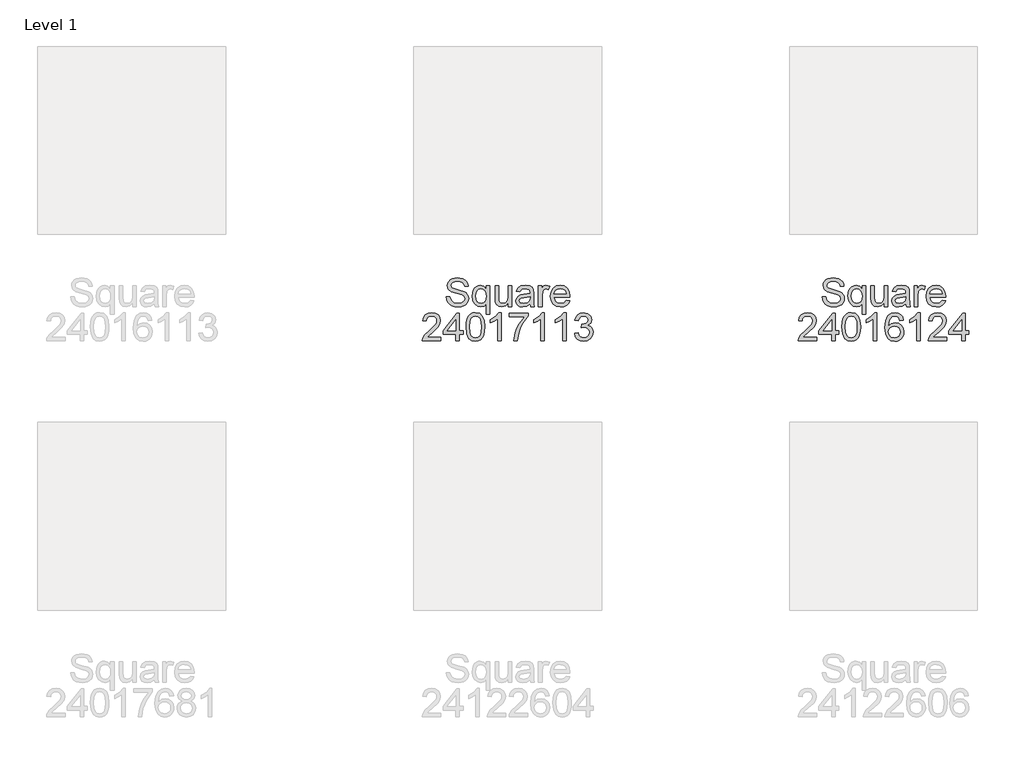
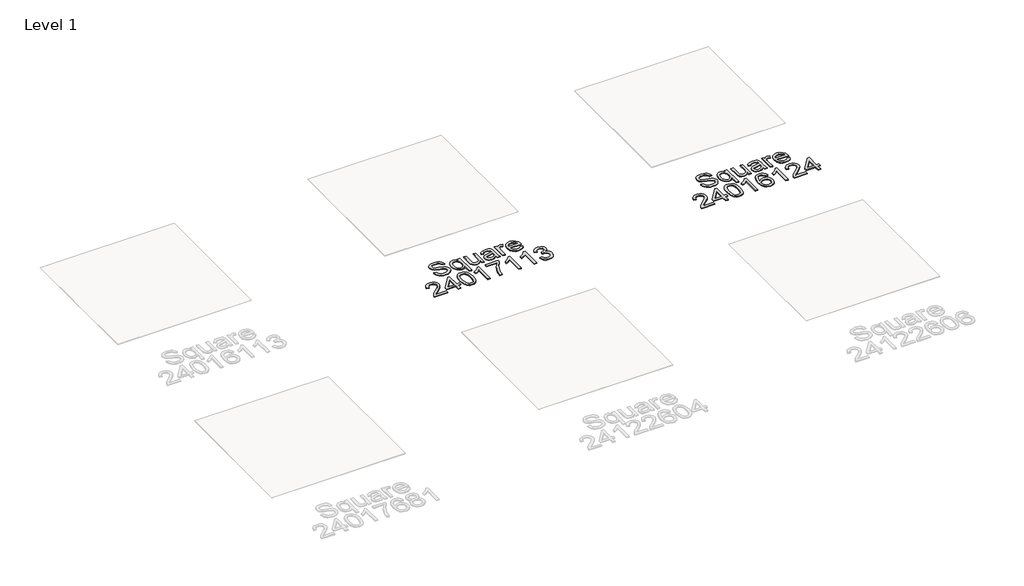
# One storey, part 6 of 6: 2 proxies.
"""IFC4 building model written with IfcOpenShell, lengths in millimetres."""

from ifc_helpers import new_model, si_unit, origin, origin_with_axes, place, context, project, spatial, polyline, outline, extrude, element, save

model = new_model("IFC4")

# Units and contexts
model_context = context("Model", 3, world=origin())
ifc_project = project(units=[si_unit("LENGTHUNIT", "METRE", prefix="MILLI")], contexts=[model_context])

# Site, building, storey
site = spatial("IfcSite", under=ifc_project)
building = spatial("IfcBuilding", under=site)
storey = spatial("IfcBuildingStorey", under=building, Name="Level 1", Elevation=0.0)

# Proxies
placement = place(None, origin())
element("IfcBuildingElementProxy", 1, Name="150mm Arial", ObjectType="150mm Arial", at=placement, inside=storey, context=model_context, shape_type="SweptSolid", body=[
    extrude(outline(polyline([(1239.9685562, 688.8522427), (1258.8041143, 688.8522427), (1264.8741672, 669.9982904), (1279.6998116, 658.0789138), (1302.2877661, 653.5355712), (1321.9694529, 656.9752678), (1334.6797758, 666.4298351), (1338.8552365, 679.0665816), (1335.7282395, 690.8204114), (1322.9259461, 699.3736678), (1295.5003433, 706.5657608), (1265.9778132, 715.8547811), (1249.9565523, 729.8710852), (1244.6774457, 748.5962787), (1246.3099221, 759.62814), (1251.2073511, 769.9150403), (1259.2409742, 778.6338436), (1270.2820326, 784.9614139), (1298.204276, 790.0933678), (1328.0027176, 784.7222906), (1339.4254536, 778.0912177), (1347.8683453, 768.940153), (1353.2118313, 757.8393138), (1355.3363499, 745.3589172), (1336.5007917, 745.3589172), (1333.0427009, 756.5977121), (1325.8322138, 764.7095101), (1314.5658277, 769.6207347), (1298.94004, 771.2578096), (1282.9463703, 769.6391288), (1271.9742897, 764.7830865), (1265.6283253, 757.6369787), (1263.5130039, 749.1481017), (1265.012123, 741.9100234), (1269.5094804, 736.0882909), (1300.2644152, 725.5668658), (1333.5945239, 716.1122985), (1344.3320797, 709.2788905), (1351.8230768, 700.8451957), (1356.2238652, 690.9031848), (1357.6907946, 679.5448282), (1356.003136, 667.9335527), (1350.94016, 657.012056), (1342.7088004, 647.612671), (1331.5159907, 640.5677308), (1318.0561082, 636.1669425), (1303.0235301, 634.700013), (1284.5696496, 636.2819056), (1269.3807217, 641.0275833), (1257.2820026, 648.9554403), (1248.0987483, 660.0838707), (1242.2034393, 673.6403222), (1239.9685562, 688.8522427)])), origin_with_axes(), (0.0, 0.0, 1.0), 5.0),
    extrude(outline(polyline([(1451.8685854, 594.6744519), (1451.8685854, 652.1376196), (1439.9124205, 639.6664199), (1423.57846, 634.700013), (1405.6718038, 638.6225548), (1390.4322922, 650.3901801), (1380.0028376, 668.9912135), (1376.5263528, 693.4139794), (1382.0445827, 723.2492092), (1388.8044144, 734.8558862), (1398.0474495, 743.2619898), (1409.0379241, 748.3663525), (1421.0400742, 750.0678067), (1438.5512572, 744.7887001), (1451.8685854, 728.9513802), (1451.8685854, 747.7133619), (1470.7041435, 747.7133619), (1470.7041435, 594.6744519), (1451.8685854, 594.6744519)]), holes=[polyline([(1395.3619109, 692.3839098), (1397.4818309, 675.3877617), (1403.8415909, 663.2476558), (1413.162801, 655.9635923), (1424.1670711, 653.5355712), (1434.7114888, 655.8440307), (1443.683211, 662.7694092), (1449.8222418, 674.4128744), (1451.8685854, 690.8755937), (1449.7118772, 708.4741486), (1443.2417526, 721.0970996), (1433.8653602, 728.6984613), (1422.9898488, 731.2322485), (1412.3166724, 728.8732052), (1403.4001325, 721.7960754), (1397.3714663, 709.7249474), (1395.3619109, 692.3839098)])]), origin_with_axes(), (0.0, 0.0, 1.0), 5.0),
    extrude(outline(polyline([(1569.5908238, 637.0544578), (1569.5908238, 656.0739569), (1554.8387558, 640.043499), (1535.5985275, 634.700013), (1517.8850094, 638.4524094), (1505.6713272, 647.8701884), (1500.0611268, 661.7393396), (1498.9574808, 679.2505226), (1498.9574808, 747.7133619), (1517.7930389, 747.7133619), (1517.7930389, 688.1164787), (1518.9334731, 668.9130386), (1526.3830835, 657.6374554), (1540.4177816, 653.5355712), (1556.1447369, 657.7294259), (1566.5374033, 669.1521618), (1569.5908238, 690.1398297), (1569.5908238, 747.7133619), (1588.426382, 747.7133619), (1588.426382, 637.0544578), (1569.5908238, 637.0544578)])), origin_with_axes(), (0.0, 0.0, 1.0), 5.0),
    extrude(outline(polyline([(1684.9586175, 651.1811264), (1666.6932765, 638.4156212), (1646.514949, 634.700013), (1630.7741982, 636.9348961), (1619.1629227, 643.6395455), (1612.0030194, 653.8206797), (1609.6163849, 666.4850174), (1613.2216285, 681.3842382), (1622.6945898, 692.1999688), (1635.8831594, 698.3803864), (1652.1803318, 701.2130777), (1684.8482529, 707.6878008), (1684.9586175, 711.8816556), (1683.6618335, 720.2877592), (1679.7714814, 725.787595), (1671.0710722, 729.8710852), (1658.9493605, 731.2322485), (1639.8930731, 727.6086109), (1630.8063878, 714.7511352), (1611.9708297, 717.1055799), (1620.1194159, 735.4996797), (1636.5269529, 746.2786221), (1661.3773816, 750.0678067), (1684.2044594, 746.7200805), (1697.0987234, 738.3139769), (1702.8744707, 725.5300776), (1703.7941757, 709.0489642), (1703.7941757, 685.6148811), (1704.7506689, 652.8917777), (1708.5030652, 637.0544578), (1689.6675071, 637.0544578), (1684.9586175, 651.1811264)]), holes=[polyline([(1684.9586175, 688.8522427), (1654.5715647, 683.0764954), (1638.3663628, 680.0230748), (1631.027117, 675.0566679), (1628.4519431, 667.8093926), (1634.0621435, 657.6190613), (1650.5248628, 653.5355712), (1669.5811501, 658.0421256), (1681.8684088, 668.9498268), (1684.8482529, 683.5179538), (1684.9586175, 688.8522427)])]), origin_with_axes(), (0.0, 0.0, 1.0), 5.0),
    extrude(outline(polyline([(1729.6930681, 637.0544578), (1729.6930681, 747.7133619), (1746.1741815, 747.7133619), (1746.1741815, 731.3426131), (1757.872829, 746.4257749), (1769.6450528, 750.0678067), (1788.5541874, 744.2552712), (1782.2634053, 727.3694876), (1769.0196534, 731.2322485), (1758.3694697, 727.5166404), (1751.5820469, 717.2159445), (1748.5286263, 695.2166012), (1748.5286263, 637.0544578), (1729.6930681, 637.0544578)])), origin_with_axes(), (0.0, 0.0, 1.0), 5.0),
    extrude(outline(polyline([(1877.8023594, 670.0166845), (1896.2700356, 667.6622398), (1889.61597, 653.7471033), (1878.9979759, 643.3452399), (1864.6551766, 636.8613197), (1846.8266954, 634.700013), (1824.7261845, 638.4294167), (1807.7208393, 649.6176279), (1796.8775175, 667.5380796), (1793.2630769, 691.4642049), (1796.9143057, 716.195072), (1807.8679921, 734.6903393), (1824.6434111, 746.2234398), (1845.7598376, 750.0678067), (1866.2186751, 746.2326369), (1882.5664312, 734.7271275), (1893.2855929, 716.2686484), (1896.8586468, 691.5745695), (1896.7482822, 686.4977979), (1812.0986351, 686.4977979), (1815.3589892, 672.3987205), (1822.9327598, 662.0336452), (1833.8634536, 655.6600897), (1847.1945774, 653.5355712), (1865.6622536, 657.4719085), (1877.8023594, 670.0166845)]), holes=[polyline([(1812.0986351, 705.3333561), (1878.0230886, 705.3333561), (1875.4755058, 715.284564), (1870.4815077, 722.4030807), (1859.5002301, 729.0249566), (1845.6862612, 731.2322485), (1832.9897339, 729.4710135), (1822.4913014, 724.1873083), (1815.1934423, 715.9513502), (1812.0986351, 705.3333561)])]), origin_with_axes(), (0.0, 0.0, 1.0), 5.0),
    extrude(outline(polyline([(1210.5379966, 472.9277892), (1210.5379966, 454.092231), (1111.6513162, 454.092231), (1113.6746672, 467.0784654), (1125.1157973, 487.0728519), (1148.6970332, 508.9066483), (1181.2178015, 540.2869825), (1187.3154456, 551.1027131), (1189.3479936, 561.6241382), (1187.4304087, 571.0557128), (1181.677654, 578.8961979), (1172.8346906, 584.179903), (1161.6464794, 585.9411381), (1149.8972482, 584.2212897), (1140.7691762, 579.0617448), (1134.8784657, 570.8671733), (1132.8413192, 560.0422456), (1114.005761, 562.3966904), (1118.5720963, 580.6160462), (1128.4451293, 593.9241774), (1143.1098254, 602.0635665), (1162.0511496, 604.7766962), (1181.1304296, 601.7600639), (1195.7675344, 592.7101668), (1205.0795474, 579.1905035), (1208.1835518, 562.7645724), (1204.8358256, 544.9039015), (1193.7073953, 526.4362254), (1166.7232509, 500.6293034), (1145.0550014, 482.5111151), (1136.5569273, 472.9277892), (1210.5379966, 472.9277892)])), origin_with_axes(), (0.0, 0.0, 1.0), 5.0),
    extrude(outline(polyline([(1290.5891187, 454.092231), (1290.5891187, 489.4089025), (1222.3102204, 489.4089025), (1222.3102204, 508.2444607), (1295.2980082, 602.4222515), (1309.4246769, 602.4222515), (1309.4246769, 508.2444607), (1328.260235, 508.2444607), (1328.260235, 489.4089025), (1309.4246769, 489.4089025), (1309.4246769, 454.092231), (1290.5891187, 454.092231)]), holes=[polyline([(1290.5891187, 508.2444607), (1290.5891187, 566.4433923), (1245.4867861, 508.2444607), (1290.5891187, 508.2444607)])]), origin_with_axes(), (0.0, 0.0, 1.0), 5.0),
    extrude(outline(polyline([(1344.7413484, 528.220453), (1346.1255044, 552.3397163), (1350.2779724, 571.5753462), (1357.1573657, 586.2216481), (1366.7222976, 596.5729277), (1379.0417459, 602.7257541), (1394.1846885, 604.7766962), (1416.1840319, 599.9206539), (1431.3775583, 585.922744), (1440.2067261, 563.6290951), (1443.6280287, 528.220453), (1442.2576683, 504.2391455), (1438.146587, 485.0495009), (1431.3085804, 470.3894034), (1421.7574441, 459.996737), (1409.4104046, 453.8025239), (1394.1846885, 451.7377862), (1374.6133664, 455.3246357), (1359.7509338, 466.085184), (1348.4937447, 491.5702093), (1344.7413484, 528.220453)]), holes=[polyline([(1363.5769065, 528.2572412), (1365.7841985, 498.628945), (1372.4060744, 481.4810455), (1382.2653119, 473.3002697), (1394.1846885, 470.5733444), (1406.1040652, 473.3094667), (1415.9633027, 481.5178337), (1422.5851786, 498.6749303), (1424.7924705, 528.2572412), (1422.658755, 557.2187513), (1416.2576083, 574.500008), (1406.4167649, 583.0808556), (1393.9639593, 585.9411381), (1382.1733414, 583.4211464), (1372.70038, 575.8611714), (1365.8577749, 557.5038598), (1363.5769065, 528.2572412)])]), origin_with_axes(), (0.0, 0.0, 1.0), 5.0),
    extrude(outline(polyline([(1530.7424852, 454.092231), (1511.906927, 454.092231), (1511.906927, 571.5201639), (1494.0646502, 558.8098409), (1474.2358107, 549.3000914), (1474.2358107, 567.1055799), (1501.8453544, 584.7271275), (1518.6023793, 604.7766962), (1530.7424852, 604.7766962), (1530.7424852, 454.092231)])), origin_with_axes(), (0.0, 0.0, 1.0), 5.0),
    extrude(outline(polyline([(1575.4769358, 583.5866933), (1575.4769358, 602.4222515), (1674.3636161, 602.4222515), (1674.3636161, 587.1919369), (1646.3126139, 546.6697351), (1634.0023627, 521.2077025), (1624.8466995, 495.0374971), (1617.8569416, 454.092231), (1599.0213835, 454.092231), (1606.5077821, 496.5826014), (1615.2219868, 521.0421556), (1627.0539915, 544.6095959), (1655.5280579, 583.5866933), (1575.4769358, 583.5866933)])), origin_with_axes(), (0.0, 0.0, 1.0), 5.0),
    extrude(outline(polyline([(1761.4780725, 454.092231), (1742.6425144, 454.092231), (1742.6425144, 571.5201639), (1724.8002376, 558.8098409), (1704.9713981, 549.3000914), (1704.9713981, 567.1055799), (1732.5809418, 584.7271275), (1749.3379667, 604.7766962), (1761.4780725, 604.7766962), (1761.4780725, 454.092231)])), origin_with_axes(), (0.0, 0.0, 1.0), 5.0),
    extrude(outline(polyline([(1876.8458662, 454.092231), (1858.0103081, 454.092231), (1858.0103081, 571.5201639), (1840.1680313, 558.8098409), (1820.3391918, 549.3000914), (1820.3391918, 567.1055799), (1847.9487355, 584.7271275), (1864.7057604, 604.7766962), (1876.8458662, 604.7766962), (1876.8458662, 454.092231)])), origin_with_axes(), (0.0, 0.0, 1.0), 5.0),
    extrude(outline(polyline([(1921.5803168, 494.1177921), (1940.415875, 496.4722368), (1944.6327224, 484.6356337), (1950.8085413, 476.6433973), (1959.2468346, 472.0908576), (1970.2511048, 470.5733444), (1983.1637628, 472.6610747), (1993.1333649, 478.9242657), (1999.5069205, 488.2684684), (2001.631439, 499.5992338), (1999.5253146, 510.3551836), (1993.2069413, 519.0785855), (1983.6420094, 524.8589313), (1971.7962092, 526.7857132), (1958.5892455, 524.7255741), (1960.6861729, 543.5611322), (1963.7028053, 543.340403), (1985.0767492, 548.7482684), (1992.1952658, 555.6092676), (1994.5681047, 565.3765345), (1992.8482563, 573.5113252), (1987.6887114, 580.1102085), (1979.8160367, 584.4834057), (1969.9567992, 585.9411381), (1960.0791676, 584.4696101), (1952.0041578, 580.0550262), (1946.1088489, 572.6973862), (1942.7703198, 562.3966904), (1923.9347616, 564.7511352), (1929.4805827, 581.6645099), (1939.3490172, 594.2920594), (1952.8502864, 602.155537), (1969.2946116, 604.7766962), (1992.0113248, 599.6079542), (2007.903827, 585.4812856), (2013.4036628, 566.4801805), (2008.1797385, 549.1161504), (1992.7286947, 536.6449507), (2004.5193126, 531.8808789), (2013.25651, 523.7690809), (2018.6643754, 512.7510151), (2020.4669971, 499.26814), (2016.8617536, 480.9108285), (2006.0460229, 465.5701493), (1989.7212594, 455.195877), (1969.5889172, 451.7377862), (1951.3787584, 454.6900392), (1936.553114, 463.5467983), (1926.2432211, 477.0940528), (1921.5803168, 494.1177921)])), origin_with_axes(), (0.0, 0.0, 1.0), 5.0),
])
element("IfcBuildingElementProxy", 2, Name="150mm Arial", ObjectType="150mm Arial", at=placement, inside=storey, context=model_context, shape_type="SweptSolid", body=[
    extrude(outline(polyline([(3239.9685562, 688.8522427), (3258.8041143, 688.8522427), (3264.8741672, 669.9982904), (3279.6998116, 658.0789138), (3302.2877661, 653.5355712), (3321.9694529, 656.9752678), (3334.6797758, 666.4298351), (3338.8552365, 679.0665816), (3335.7282395, 690.8204114), (3322.9259461, 699.3736678), (3295.5003433, 706.5657608), (3265.9778132, 715.8547811), (3249.9565523, 729.8710852), (3244.6774457, 748.5962787), (3246.3099221, 759.62814), (3251.2073511, 769.9150403), (3259.2409742, 778.6338436), (3270.2820326, 784.9614139), (3298.204276, 790.0933678), (3328.0027176, 784.7222906), (3339.4254536, 778.0912177), (3347.8683453, 768.940153), (3353.2118313, 757.8393138), (3355.3363499, 745.3589172), (3336.5007917, 745.3589172), (3333.0427009, 756.5977121), (3325.8322138, 764.7095101), (3314.5658277, 769.6207347), (3298.94004, 771.2578096), (3282.9463703, 769.6391288), (3271.9742897, 764.7830865), (3265.6283253, 757.6369787), (3263.5130039, 749.1481017), (3265.012123, 741.9100234), (3269.5094804, 736.0882909), (3300.2644152, 725.5668658), (3333.5945239, 716.1122985), (3344.3320797, 709.2788905), (3351.8230768, 700.8451957), (3356.2238652, 690.9031848), (3357.6907946, 679.5448282), (3356.003136, 667.9335527), (3350.94016, 657.012056), (3342.7088004, 647.612671), (3331.5159907, 640.5677308), (3318.0561082, 636.1669425), (3303.0235301, 634.700013), (3284.5696496, 636.2819056), (3269.3807217, 641.0275833), (3257.2820026, 648.9554403), (3248.0987483, 660.0838707), (3242.2034393, 673.6403222), (3239.9685562, 688.8522427)])), origin_with_axes(), (0.0, 0.0, 1.0), 5.0),
    extrude(outline(polyline([(3451.8685854, 594.6744519), (3451.8685854, 652.1376196), (3439.9124205, 639.6664199), (3423.57846, 634.700013), (3405.6718038, 638.6225548), (3390.4322922, 650.3901801), (3380.0028376, 668.9912135), (3376.5263528, 693.4139794), (3382.0445827, 723.2492092), (3388.8044144, 734.8558862), (3398.0474495, 743.2619898), (3409.0379241, 748.3663525), (3421.0400742, 750.0678067), (3438.5512572, 744.7887001), (3451.8685854, 728.9513802), (3451.8685854, 747.7133619), (3470.7041435, 747.7133619), (3470.7041435, 594.6744519), (3451.8685854, 594.6744519)]), holes=[polyline([(3395.3619109, 692.3839098), (3397.4818309, 675.3877617), (3403.8415909, 663.2476558), (3413.162801, 655.9635923), (3424.1670711, 653.5355712), (3434.7114888, 655.8440307), (3443.683211, 662.7694092), (3449.8222418, 674.4128744), (3451.8685854, 690.8755937), (3449.7118772, 708.4741486), (3443.2417526, 721.0970996), (3433.8653602, 728.6984613), (3422.9898488, 731.2322485), (3412.3166724, 728.8732052), (3403.4001325, 721.7960754), (3397.3714663, 709.7249474), (3395.3619109, 692.3839098)])]), origin_with_axes(), (0.0, 0.0, 1.0), 5.0),
    extrude(outline(polyline([(3569.5908238, 637.0544578), (3569.5908238, 656.0739569), (3554.8387558, 640.043499), (3535.5985275, 634.700013), (3517.8850094, 638.4524094), (3505.6713272, 647.8701884), (3500.0611268, 661.7393396), (3498.9574808, 679.2505226), (3498.9574808, 747.7133619), (3517.7930389, 747.7133619), (3517.7930389, 688.1164787), (3518.9334731, 668.9130386), (3526.3830835, 657.6374554), (3540.4177816, 653.5355712), (3556.1447369, 657.7294259), (3566.5374033, 669.1521618), (3569.5908238, 690.1398297), (3569.5908238, 747.7133619), (3588.426382, 747.7133619), (3588.426382, 637.0544578), (3569.5908238, 637.0544578)])), origin_with_axes(), (0.0, 0.0, 1.0), 5.0),
    extrude(outline(polyline([(3684.9586175, 651.1811264), (3666.6932765, 638.4156212), (3646.514949, 634.700013), (3630.7741982, 636.9348961), (3619.1629227, 643.6395455), (3612.0030194, 653.8206797), (3609.6163849, 666.4850174), (3613.2216285, 681.3842382), (3622.6945898, 692.1999688), (3635.8831594, 698.3803864), (3652.1803318, 701.2130777), (3684.8482529, 707.6878008), (3684.9586175, 711.8816556), (3683.6618335, 720.2877592), (3679.7714814, 725.787595), (3671.0710722, 729.8710852), (3658.9493605, 731.2322485), (3639.8930731, 727.6086109), (3630.8063878, 714.7511352), (3611.9708297, 717.1055799), (3620.1194159, 735.4996797), (3636.5269529, 746.2786221), (3661.3773816, 750.0678067), (3684.2044594, 746.7200805), (3697.0987234, 738.3139769), (3702.8744707, 725.5300776), (3703.7941757, 709.0489642), (3703.7941757, 685.6148811), (3704.7506689, 652.8917777), (3708.5030652, 637.0544578), (3689.6675071, 637.0544578), (3684.9586175, 651.1811264)]), holes=[polyline([(3684.9586175, 688.8522427), (3654.5715647, 683.0764954), (3638.3663628, 680.0230748), (3631.027117, 675.0566679), (3628.4519431, 667.8093926), (3634.0621435, 657.6190613), (3650.5248628, 653.5355712), (3669.5811501, 658.0421256), (3681.8684088, 668.9498268), (3684.8482529, 683.5179538), (3684.9586175, 688.8522427)])]), origin_with_axes(), (0.0, 0.0, 1.0), 5.0),
    extrude(outline(polyline([(3729.6930681, 637.0544578), (3729.6930681, 747.7133619), (3746.1741815, 747.7133619), (3746.1741815, 731.3426131), (3757.872829, 746.4257749), (3769.6450528, 750.0678067), (3788.5541874, 744.2552712), (3782.2634053, 727.3694876), (3769.0196534, 731.2322485), (3758.3694697, 727.5166404), (3751.5820469, 717.2159445), (3748.5286263, 695.2166012), (3748.5286263, 637.0544578), (3729.6930681, 637.0544578)])), origin_with_axes(), (0.0, 0.0, 1.0), 5.0),
    extrude(outline(polyline([(3877.8023594, 670.0166845), (3896.2700356, 667.6622398), (3889.61597, 653.7471033), (3878.9979759, 643.3452399), (3864.6551766, 636.8613197), (3846.8266954, 634.700013), (3824.7261845, 638.4294167), (3807.7208393, 649.6176279), (3796.8775175, 667.5380796), (3793.2630769, 691.4642049), (3796.9143057, 716.195072), (3807.8679921, 734.6903393), (3824.6434111, 746.2234398), (3845.7598376, 750.0678067), (3866.2186751, 746.2326369), (3882.5664312, 734.7271275), (3893.2855929, 716.2686484), (3896.8586468, 691.5745695), (3896.7482822, 686.4977979), (3812.0986351, 686.4977979), (3815.3589892, 672.3987205), (3822.9327598, 662.0336452), (3833.8634536, 655.6600897), (3847.1945774, 653.5355712), (3865.6622536, 657.4719085), (3877.8023594, 670.0166845)]), holes=[polyline([(3812.0986351, 705.3333561), (3878.0230886, 705.3333561), (3875.4755058, 715.284564), (3870.4815077, 722.4030807), (3859.5002301, 729.0249566), (3845.6862612, 731.2322485), (3832.9897339, 729.4710135), (3822.4913014, 724.1873083), (3815.1934423, 715.9513502), (3812.0986351, 705.3333561)])]), origin_with_axes(), (0.0, 0.0, 1.0), 5.0),
    extrude(outline(polyline([(3210.5379966, 472.9277892), (3210.5379966, 454.092231), (3111.6513162, 454.092231), (3113.6746672, 467.0784654), (3125.1157973, 487.0728519), (3148.6970332, 508.9066483), (3181.2178015, 540.2869825), (3187.3154456, 551.1027131), (3189.3479936, 561.6241382), (3187.4304087, 571.0557128), (3181.677654, 578.8961979), (3172.8346906, 584.179903), (3161.6464794, 585.9411381), (3149.8972482, 584.2212897), (3140.7691762, 579.0617448), (3134.8784657, 570.8671733), (3132.8413192, 560.0422456), (3114.005761, 562.3966904), (3118.5720963, 580.6160462), (3128.4451293, 593.9241774), (3143.1098254, 602.0635665), (3162.0511496, 604.7766962), (3181.1304296, 601.7600639), (3195.7675344, 592.7101668), (3205.0795474, 579.1905035), (3208.1835518, 562.7645724), (3204.8358256, 544.9039015), (3193.7073953, 526.4362254), (3166.7232509, 500.6293034), (3145.0550014, 482.5111151), (3136.5569273, 472.9277892), (3210.5379966, 472.9277892)])), origin_with_axes(), (0.0, 0.0, 1.0), 5.0),
    extrude(outline(polyline([(3290.5891187, 454.092231), (3290.5891187, 489.4089025), (3222.3102204, 489.4089025), (3222.3102204, 508.2444607), (3295.2980082, 602.4222515), (3309.4246769, 602.4222515), (3309.4246769, 508.2444607), (3328.260235, 508.2444607), (3328.260235, 489.4089025), (3309.4246769, 489.4089025), (3309.4246769, 454.092231), (3290.5891187, 454.092231)]), holes=[polyline([(3290.5891187, 508.2444607), (3290.5891187, 566.4433923), (3245.4867861, 508.2444607), (3290.5891187, 508.2444607)])]), origin_with_axes(), (0.0, 0.0, 1.0), 5.0),
    extrude(outline(polyline([(3344.7413484, 528.220453), (3346.1255044, 552.3397163), (3350.2779724, 571.5753462), (3357.1573657, 586.2216481), (3366.7222976, 596.5729277), (3379.0417459, 602.7257541), (3394.1846885, 604.7766962), (3416.1840319, 599.9206539), (3431.3775583, 585.922744), (3440.2067261, 563.6290951), (3443.6280287, 528.220453), (3442.2576683, 504.2391455), (3438.146587, 485.0495009), (3431.3085804, 470.3894034), (3421.7574441, 459.996737), (3409.4104046, 453.8025239), (3394.1846885, 451.7377862), (3374.6133664, 455.3246357), (3359.7509338, 466.085184), (3348.4937447, 491.5702093), (3344.7413484, 528.220453)]), holes=[polyline([(3363.5769065, 528.2572412), (3365.7841985, 498.628945), (3372.4060744, 481.4810455), (3382.2653119, 473.3002697), (3394.1846885, 470.5733444), (3406.1040652, 473.3094667), (3415.9633027, 481.5178337), (3422.5851786, 498.6749303), (3424.7924705, 528.2572412), (3422.658755, 557.2187513), (3416.2576083, 574.500008), (3406.4167649, 583.0808556), (3393.9639593, 585.9411381), (3382.1733414, 583.4211464), (3372.70038, 575.8611714), (3365.8577749, 557.5038598), (3363.5769065, 528.2572412)])]), origin_with_axes(), (0.0, 0.0, 1.0), 5.0),
    extrude(outline(polyline([(3530.7424852, 454.092231), (3511.906927, 454.092231), (3511.906927, 571.5201639), (3494.0646502, 558.8098409), (3474.2358107, 549.3000914), (3474.2358107, 567.1055799), (3501.8453544, 584.7271275), (3518.6023793, 604.7766962), (3530.7424852, 604.7766962), (3530.7424852, 454.092231)])), origin_with_axes(), (0.0, 0.0, 1.0), 5.0),
    extrude(outline(polyline([(3672.0091713, 564.7511352), (3653.1736131, 562.3966904), (3646.0367024, 578.1052516), (3637.4926431, 583.9821664), (3627.1643561, 585.9411381), (3610.1682079, 581.3794013), (3597.3107322, 564.2544945), (3593.4065845, 550.2243949), (3591.9580491, 530.6852624), (3608.5679212, 545.7132419), (3629.1509189, 550.6244665), (3646.5517372, 547.2675433), (3661.1566524, 537.1967737), (3671.0618752, 521.8101093), (3674.3636161, 502.5055016), (3672.8093146, 489.0180279), (3668.1464104, 476.5146386), (3660.7611793, 465.9104401), (3651.0398976, 458.1205388), (3639.4240236, 453.3334744), (3626.3550157, 451.7377862), (3604.9856703, 455.9684292), (3587.9665295, 468.660358), (3576.8335006, 491.0643715), (3573.122491, 524.4312685), (3577.2427693, 561.9460349), (3589.6036044, 587.5966071), (3606.4801909, 600.4816739), (3628.3415785, 604.7766962), (3644.8686771, 602.1187488), (3658.1032319, 594.1449066), (3667.3738582, 581.4805689), (3672.0091713, 564.7511352)]), holes=[polyline([(3591.9580491, 502.7998072), (3596.3174508, 486.4842407), (3607.9057336, 474.6384404), (3624.8834877, 470.5733444), (3637.3133006, 472.6794688), (3647.0851661, 478.9978421), (3653.417335, 488.9306559), (3655.5280579, 501.8801022), (3653.4449261, 514.3099151), (3647.1955307, 523.787475), (3637.2581183, 529.78855), (3624.1109355, 531.7889084), (3611.6995167, 529.78855), (3601.3206459, 523.787475), (3594.2986983, 514.5398413), (3591.9580491, 502.7998072)])]), origin_with_axes(), (0.0, 0.0, 1.0), 5.0),
    extrude(outline(polyline([(3761.4780725, 454.092231), (3742.6425144, 454.092231), (3742.6425144, 571.5201639), (3724.8002376, 558.8098409), (3704.9713981, 549.3000914), (3704.9713981, 567.1055799), (3732.5809418, 584.7271275), (3749.3379667, 604.7766962), (3761.4780725, 604.7766962), (3761.4780725, 454.092231)])), origin_with_axes(), (0.0, 0.0, 1.0), 5.0),
    extrude(outline(polyline([(3902.7447587, 472.9277892), (3902.7447587, 454.092231), (3803.8580784, 454.092231), (3805.8814293, 467.0784654), (3817.3225594, 487.0728519), (3840.9037953, 508.9066483), (3873.4245637, 540.2869825), (3879.5222077, 551.1027131), (3881.5547558, 561.6241382), (3879.6371709, 571.0557128), (3873.8844162, 578.8961979), (3865.0414527, 584.179903), (3853.8532415, 585.9411381), (3842.1040103, 584.2212897), (3832.9759383, 579.0617448), (3827.0852278, 570.8671733), (3825.0480813, 560.0422456), (3806.2125231, 562.3966904), (3810.7788584, 580.6160462), (3820.6518915, 593.9241774), (3835.3165875, 602.0635665), (3854.2579117, 604.7766962), (3873.3371917, 601.7600639), (3887.9742966, 592.7101668), (3897.2863096, 579.1905035), (3900.3903139, 562.7645724), (3897.0425877, 544.9039015), (3885.9141574, 526.4362254), (3858.930013, 500.6293034), (3837.2617635, 482.5111151), (3828.7636894, 472.9277892), (3902.7447587, 472.9277892)])), origin_with_axes(), (0.0, 0.0, 1.0), 5.0),
    extrude(outline(polyline([(3982.7958808, 454.092231), (3982.7958808, 489.4089025), (3914.5169825, 489.4089025), (3914.5169825, 508.2444607), (3987.5047704, 602.4222515), (4001.631439, 602.4222515), (4001.631439, 508.2444607), (4020.4669971, 508.2444607), (4020.4669971, 489.4089025), (4001.631439, 489.4089025), (4001.631439, 454.092231), (3982.7958808, 454.092231)]), holes=[polyline([(3982.7958808, 508.2444607), (3982.7958808, 566.4433923), (3937.6935482, 508.2444607), (3982.7958808, 508.2444607)])]), origin_with_axes(), (0.0, 0.0, 1.0), 5.0),
])

save(model, "model.ifc")
